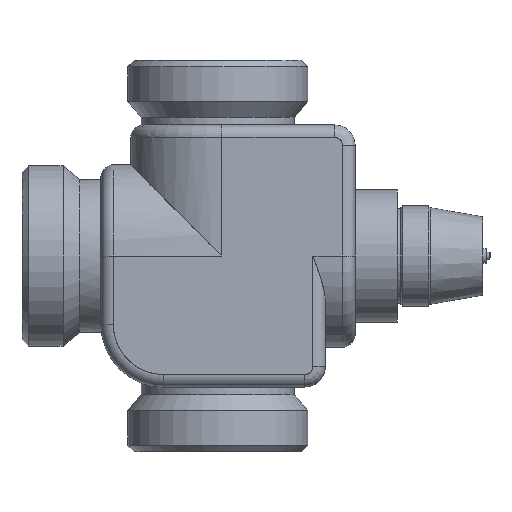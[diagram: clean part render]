
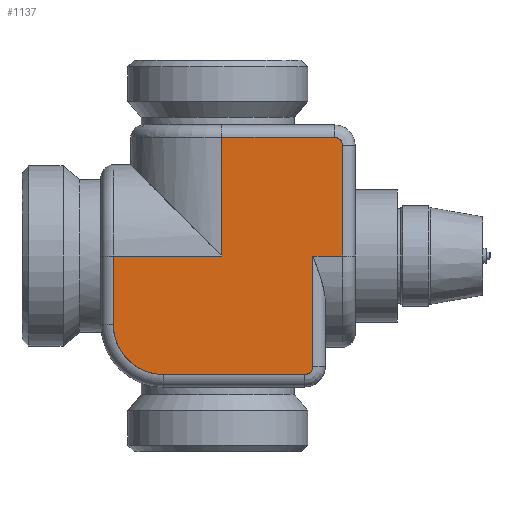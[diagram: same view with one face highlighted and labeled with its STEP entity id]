
A CAD part, left-side view. The second image highlights one B-rep face of the part: STEP entity #1137.
In plain terms, the highlighted planar face has unit normal (1, 0, 0).
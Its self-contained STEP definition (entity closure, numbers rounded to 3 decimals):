
#87=LINE('',#4906,#181);
#88=LINE('',#4909,#182);
#89=LINE('',#4911,#183);
#90=LINE('',#4920,#184);
#91=LINE('',#4933,#185);
#92=LINE('',#4935,#186);
#93=LINE('',#4937,#187);
#94=LINE('',#4939,#188);
#181=VECTOR('',#3453,1.);
#182=VECTOR('',#3454,1.);
#183=VECTOR('',#3455,1.);
#184=VECTOR('',#3456,1.);
#185=VECTOR('',#3457,1.);
#186=VECTOR('',#3458,1.);
#187=VECTOR('',#3459,1.);
#188=VECTOR('',#3460,1.);
#261=FACE_OUTER_BOUND('',#1325,.T.);
#1137=ADVANCED_FACE('',(#261),#1200,.T.);
#1200=PLANE('',#3086);
#1325=EDGE_LOOP('',(#1573,#1574,#1575,#1576,#1577,#1578,#1579,#1580,#1581,
#1582,#1583));
#1573=ORIENTED_EDGE('',*,*,#2403,.T.);
#1574=ORIENTED_EDGE('',*,*,#2404,.T.);
#1575=ORIENTED_EDGE('',*,*,#2405,.T.);
#1576=ORIENTED_EDGE('',*,*,#2406,.T.);
#1577=ORIENTED_EDGE('',*,*,#2407,.T.);
#1578=ORIENTED_EDGE('',*,*,#2408,.T.);
#1579=ORIENTED_EDGE('',*,*,#2409,.T.);
#1580=ORIENTED_EDGE('',*,*,#2410,.T.);
#1581=ORIENTED_EDGE('',*,*,#2411,.T.);
#1582=ORIENTED_EDGE('',*,*,#2412,.T.);
#1583=ORIENTED_EDGE('',*,*,#2413,.T.);
#1988=VERTEX_POINT('',#4907);
#1989=VERTEX_POINT('',#4908);
#1990=VERTEX_POINT('',#4910);
#1991=VERTEX_POINT('',#4912);
#1992=VERTEX_POINT('',#4919);
#1993=VERTEX_POINT('',#4921);
#1994=VERTEX_POINT('',#4932);
#1995=VERTEX_POINT('',#4934);
#1996=VERTEX_POINT('',#4936);
#1997=VERTEX_POINT('',#4938);
#1998=VERTEX_POINT('',#4940);
#2403=EDGE_CURVE('',#1988,#1989,#87,.T.);
#2404=EDGE_CURVE('',#1989,#1990,#88,.T.);
#2405=EDGE_CURVE('',#1990,#1991,#89,.T.);
#2406=EDGE_CURVE('',#1991,#1992,#2706,.T.);
#2407=EDGE_CURVE('',#1992,#1993,#90,.T.);
#2408=EDGE_CURVE('',#1993,#1994,#2707,.T.);
#2409=EDGE_CURVE('',#1994,#1995,#91,.T.);
#2410=EDGE_CURVE('',#1995,#1996,#92,.T.);
#2411=EDGE_CURVE('',#1996,#1997,#93,.T.);
#2412=EDGE_CURVE('',#1997,#1998,#94,.T.);
#2413=EDGE_CURVE('',#1998,#1988,#2708,.T.);
#2706=B_SPLINE_CURVE_WITH_KNOTS('',3,(#4913,#4914,#4915,#4916,#4917,#4918),
 .UNSPECIFIED.,.F.,.F.,(4,2,4),(0.,0.5,1.),.UNSPECIFIED.);
#2707=B_SPLINE_CURVE_WITH_KNOTS('',3,(#4922,#4923,#4924,#4925,#4926,#4927,
#4928,#4929,#4930,#4931),.UNSPECIFIED.,.F.,.F.,(4,2,2,2,4),(0.,0.25,0.5,
0.75,1.),.UNSPECIFIED.);
#2708=B_SPLINE_CURVE_WITH_KNOTS('',3,(#4941,#4942,#4943,#4944,#4945,#4946),
 .UNSPECIFIED.,.F.,.F.,(4,2,4),(0.,0.5,1.),.UNSPECIFIED.);
#3086=AXIS2_PLACEMENT_3D('',#4947,#3461,#3462);
#3453=DIRECTION('',(0.,0.,-1.));
#3454=DIRECTION('',(0.,1.,0.));
#3455=DIRECTION('',(0.,0.,-1.));
#3456=DIRECTION('',(0.,1.,0.));
#3457=DIRECTION('',(0.,0.,1.));
#3458=DIRECTION('',(0.,-1.,0.));
#3459=DIRECTION('',(0.,0.,1.));
#3460=DIRECTION('',(0.,-1.,0.));
#3461=DIRECTION('',(1.,0.,0.));
#3462=DIRECTION('',(0.,0.,1.));
#4906=CARTESIAN_POINT('',(-24.551,-33.485,52.5));
#4907=CARTESIAN_POINT('',(-24.551,-33.485,82.059));
#4908=CARTESIAN_POINT('',(-24.551,-33.485,52.5));
#4909=CARTESIAN_POINT('',(-24.551,-2.743,52.5));
#4910=CARTESIAN_POINT('',(-24.551,-25.5,52.5));
#4911=CARTESIAN_POINT('',(-24.551,-25.5,52.5));
#4912=CARTESIAN_POINT('',(-24.551,-25.5,22.941));
#4913=CARTESIAN_POINT('',(-24.551,-25.5,22.941));
#4914=CARTESIAN_POINT('',(-24.551,-25.5,22.407));
#4915=CARTESIAN_POINT('',(-24.551,-25.28,21.796));
#4916=CARTESIAN_POINT('',(-24.551,-24.412,20.928));
#4917=CARTESIAN_POINT('',(-24.551,-23.806,20.708));
#4918=CARTESIAN_POINT('',(-24.551,-23.266,20.707));
#4919=CARTESIAN_POINT('',(-24.551,-23.266,20.707));
#4920=CARTESIAN_POINT('',(-24.551,-2.743,20.707));
#4921=CARTESIAN_POINT('',(-24.551,14.594,20.707));
#4922=CARTESIAN_POINT('',(-24.551,14.594,20.707));
#4923=CARTESIAN_POINT('',(-24.551,16.184,20.708));
#4924=CARTESIAN_POINT('',(-24.551,17.872,20.993));
#4925=CARTESIAN_POINT('',(-24.551,21.184,22.304));
#4926=CARTESIAN_POINT('',(-24.551,22.766,23.327));
#4927=CARTESIAN_POINT('',(-24.551,25.379,25.94));
#4928=CARTESIAN_POINT('',(-24.551,26.408,27.538));
#4929=CARTESIAN_POINT('',(-24.551,27.706,30.816));
#4930=CARTESIAN_POINT('',(-24.551,27.998,32.5));
#4931=CARTESIAN_POINT('',(-24.551,27.998,34.111));
#4932=CARTESIAN_POINT('',(-24.551,27.998,34.111));
#4933=CARTESIAN_POINT('',(-24.551,27.998,52.5));
#4934=CARTESIAN_POINT('',(-24.551,27.998,52.5));
#4935=CARTESIAN_POINT('',(-24.551,-2.743,52.5));
#4936=CARTESIAN_POINT('',(-24.551,-1.098,52.5));
#4937=CARTESIAN_POINT('',(-24.551,-1.098,52.5));
#4938=CARTESIAN_POINT('',(-24.551,-1.098,84.293));
#4939=CARTESIAN_POINT('',(-24.551,-2.743,84.293));
#4940=CARTESIAN_POINT('',(-24.551,-31.251,84.293));
#4941=CARTESIAN_POINT('',(-24.551,-31.251,84.293));
#4942=CARTESIAN_POINT('',(-24.551,-31.785,84.292));
#4943=CARTESIAN_POINT('',(-24.551,-32.396,84.072));
#4944=CARTESIAN_POINT('',(-24.551,-33.265,83.204));
#4945=CARTESIAN_POINT('',(-24.551,-33.484,82.598));
#4946=CARTESIAN_POINT('',(-24.551,-33.485,82.059));
#4947=CARTESIAN_POINT('',(-24.551,29.228,19.436));
